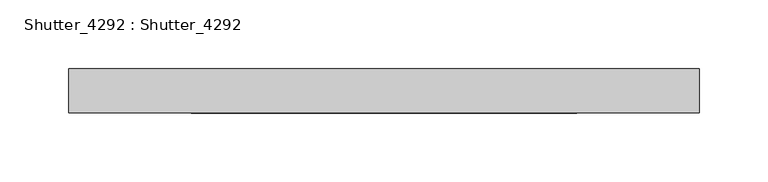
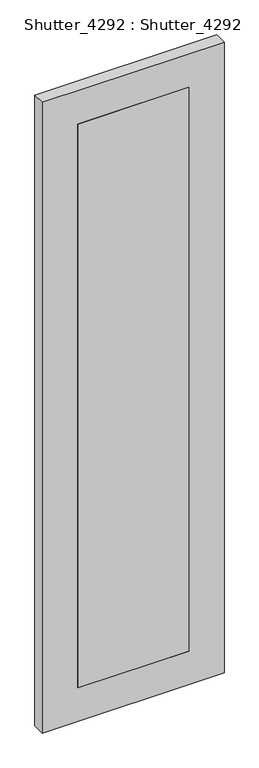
"""IFC4 building model written with IfcOpenShell, lengths in millimetres: proxy geometry, Shutter_4292 : Shutter_4292."""

from ifc_helpers import new_model, si_unit, origin, place, context, project, spatial, faceted_brep, source, transform, mapped, element, save


def shutter_4292_shutter_4292_058b0e71(model_context):
    return source(origin(), model_context, "Body", "Brep", [
        faceted_brep([(-368.3, 96.8375, 2501.9), (-368.3, 96.8375, 1003.3), (-88.9, 96.8375, 1003.3), (-88.9, 96.8375, 2501.9), (-127.0, 115.8875, 2463.8), (-127.0, 115.8875, 1041.4), (-330.2, 115.8875, 1041.4), (-330.2, 115.8875, 2463.8), (-368.3, 103.1875, 2501.9), (-368.3, 103.1875, 1003.3), (-88.9, 103.1875, 1003.3), (-88.9, 103.1875, 2501.9)], [[[0, 1, 2, 3]], [[4, 5, 6, 7]], [[1, 0, 8, 9]], [[2, 1, 9, 10]], [[3, 2, 10, 11]], [[0, 3, 11, 8]], [[10, 5, 4, 11]], [[5, 10, 9, 6]], [[6, 9, 8, 7]], [[11, 4, 7, 8]]]),
        faceted_brep([(-457.2, 96.8375, 2590.8), (-457.2, 128.5875, 2590.8), (-457.2, 128.5875, 914.4), (-457.2, 96.8375, 914.4), (-368.3, 96.8375, 2501.9), (-368.3, 96.8375, 1003.3), (-368.3, 103.1875, 1003.3), (-368.3, 115.8875, 1003.3), (-368.3, 128.5875, 1003.3), (-368.3, 128.5875, 2501.9), (-368.3, 115.8875, 2501.9), (-368.3, 103.1875, 2501.9), (0.0, 128.5875, 914.4), (0.0, 96.8375, 914.4), (-88.9, 96.8375, 1003.3), (-88.9, 103.1875, 1003.3), (-88.9, 115.8875, 1003.3), (-88.9, 128.5875, 1003.3), (0.0, 128.5875, 2590.8), (0.0, 96.8375, 2590.8), (-88.9, 96.8375, 2501.9), (-88.9, 103.1875, 2501.9), (-88.9, 115.8875, 2501.9), (-88.9, 128.5875, 2501.9)], [[[0, 1, 2, 3]], [[4, 5, 6, 7, 8, 9, 10, 11]], [[3, 2, 12, 13]], [[5, 14, 15, 16, 17, 8, 7, 6]], [[13, 12, 18, 19]], [[14, 20, 21, 22, 23, 17, 16, 15]], [[1, 0, 19, 18]], [[0, 3, 13, 19], [5, 4, 20, 14]], [[20, 4, 11, 10, 9, 23, 22, 21]], [[2, 1, 18, 12], [9, 8, 17, 23]]]),
    ])


if __name__ == "__main__":
    model = new_model("IFC4")
    model_context = context("Model", 3, world=origin())
    ifc_project = project(units=[si_unit("LENGTHUNIT", "METRE", prefix="MILLI")], contexts=[model_context])
    site = spatial("IfcSite", under=ifc_project)
    building = spatial("IfcBuilding", under=site)
    placement = place(None, origin())
    shutter_4292_shutter_4292_shape = shutter_4292_shutter_4292_058b0e71(model_context)
    element("IfcBuildingElementProxy", 1, Name="Shutter_4292 : Shutter_4292", ObjectType="Shutter_4292 : Shutter_4292", at=placement, inside=building, context=model_context, shape_type="MappedRepresentation", body=[
        mapped(shutter_4292_shutter_4292_shape, transform((0.0, 0.0, 0.0), x_axis=(1.0, 0.0, 0.0), y_axis=(0.0, 1.0, 0.0), z_axis=(0.0, 0.0, 1.0))),
    ])
    save(model, "model.ifc")
